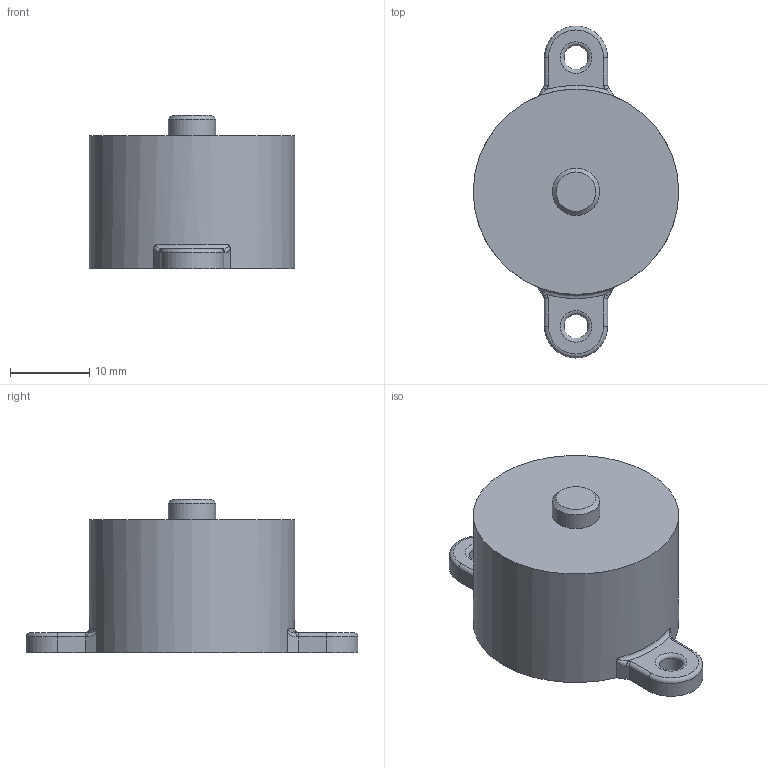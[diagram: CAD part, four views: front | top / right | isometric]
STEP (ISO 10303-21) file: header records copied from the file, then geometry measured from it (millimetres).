
FILE_DESCRIPTION(/* description */ ('Alibre Inc.'),/* implementation_level */ '2;1');
FILE_NAME(/* name */ 'export0',/* time_stamp */ '2013-08-01T11:13:53-06:00',/* author */ (''),/* organization */ (''),/* preprocessor_version */ 'ST-DEVELOPER v14',/* originating_system */ 'Alibre',/* authorisation */ '');
FILE_SCHEMA (('ALIBRE_SCHEMA','CONFIG_CONTROL_DESIGN'));
Length unit declared in the file: centimetre
Products named in the file (1): ID_1
Bounding box: 26 x 42 x 19.4 mm (x, y, z)
Volume: 9251.7 mm3; surface area: 2782.8 mm2
Topology: 1 solids, 1 shells, 38 faces, 90 edges, 55 vertices
Faces by surface type: cylinder 14, plane 13, torus 6, bspline 4, cone 1
Full cylindrical faces by diameter (mm): 3 x2, 6 x1, 26 x1
Entity records: 2806 total; most frequent: CARTESIAN_POINT 996, DIRECTION 188, ORIENTED_EDGE 164, REFERENCEDEPENDENTUV 96, PERSISTANTTOPOLOGYATTRIBUTE 84, EDGE_CURVE 82, AXIS2_PLACEMENT_3D 75, CONSTRAINTPAIRUV 67
